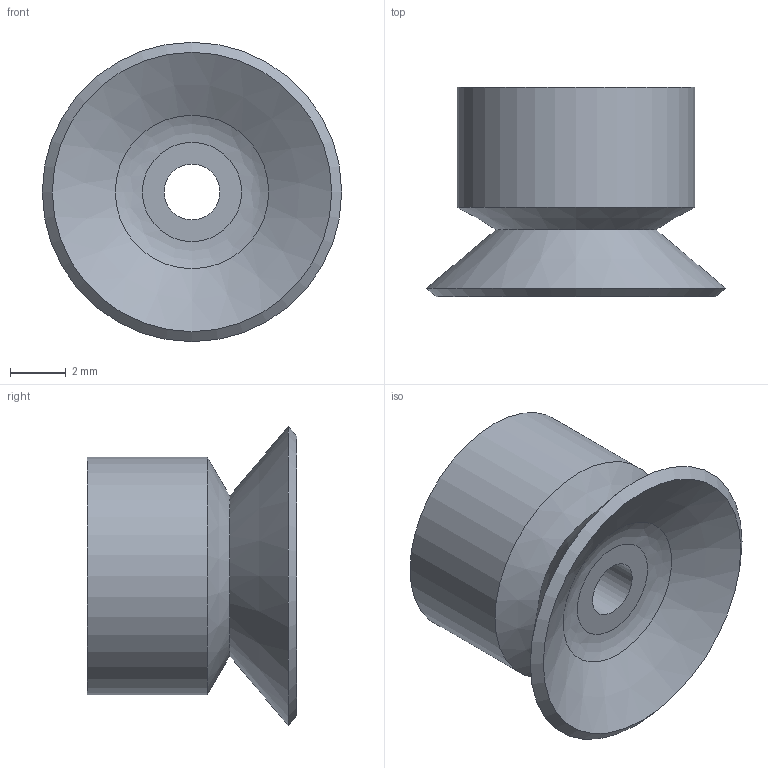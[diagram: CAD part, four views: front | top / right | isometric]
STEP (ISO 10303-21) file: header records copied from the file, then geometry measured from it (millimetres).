
FILE_DESCRIPTION (( 'STEP AP214' ), '1' );
FILE_NAME ('PA10.STEP', '2020-08-20T14:23:30', ( '' ), ( '' ), 'SwSTEP 2.0', 'SolidWorks 2018', '' );
FILE_SCHEMA (( 'AUTOMOTIVE_DESIGN' ));
Length unit declared in the file: millimetre
Products named in the file (1): PA10
Bounding box: 10.72 x 7.5 x 10.72 mm (x, y, z)
Volume: 264.7 mm3; surface area: 487.9 mm2
Topology: 1 solids, 1 shells, 15 faces, 26 edges, 15 vertices
Faces by surface type: cylinder 4, plane 4, cone 4, torus 2, bspline 1
Full cylindrical faces by diameter (mm): 2 x1, 4 x1, 6 x1, 8.5 x1
Entity records: 365 total; most frequent: CARTESIAN_POINT 73, DIRECTION 60, EDGE_LOOP 30, ORIENTED_EDGE 30, AXIS2_PLACEMENT_3D 30, FACE_OUTER_BOUND 22, CIRCLE 15, VERTEX_POINT 15
